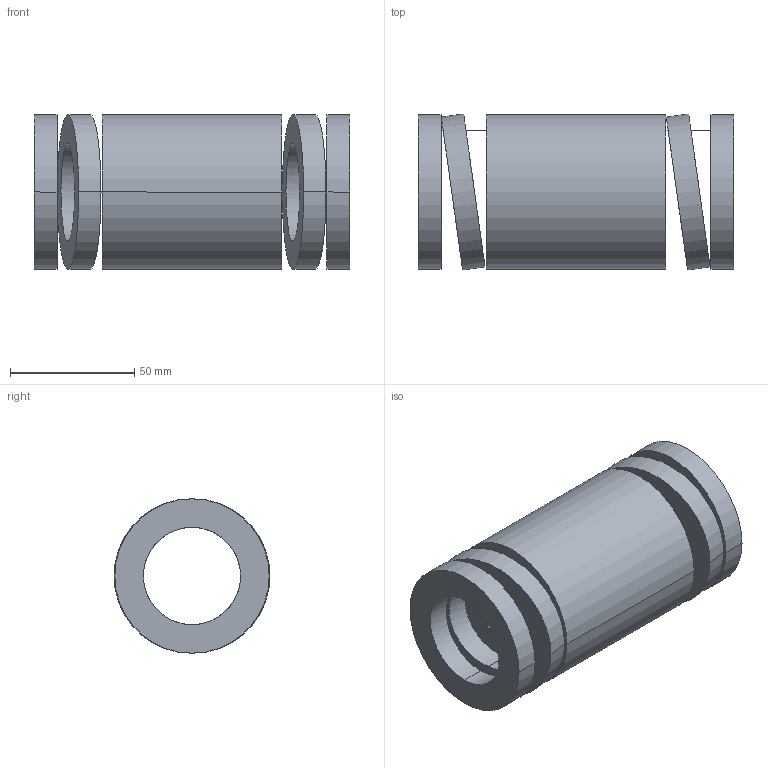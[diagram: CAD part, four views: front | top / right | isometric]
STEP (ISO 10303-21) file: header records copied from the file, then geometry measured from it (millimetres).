
FILE_DESCRIPTION(('CATIA V5 STEP Exchange'),'2;1');
FILE_NAME('C:\Users\Utente\Desktop\IO LAVORO\3D X SITO CF\X SITO\3D files 392B\392-B63-127.stp','2021-08-13T11:56:56+00:00',('none'),('none'),'CATIA Version 5 Release 20 GA (IN-10)','CATIA V5 STEP AP203','none');
FILE_SCHEMA(('CONFIG_CONTROL_DESIGN'));
Length unit declared in the file: millimetre
Products named in the file (1): 392-B63-127
Bounding box: 127 x 62.86 x 62.2 mm (x, y, z)
Volume: 199322.3 mm3; surface area: 53004.6 mm2
Topology: 1 solids, 1 shells, 38 faces, 92 edges, 64 vertices
Faces by surface type: cylinder 28, plane 10
Entity records: 1566 total; most frequent: CARTESIAN_POINT 677, ORIENTED_EDGE 184, DIRECTION 129, EDGE_CURVE 92, AXIS2_PLACEMENT_3D 64, VERTEX_POINT 64, EDGE_LOOP 56, B_SPLINE_CURVE_WITH_KNOTS 39
